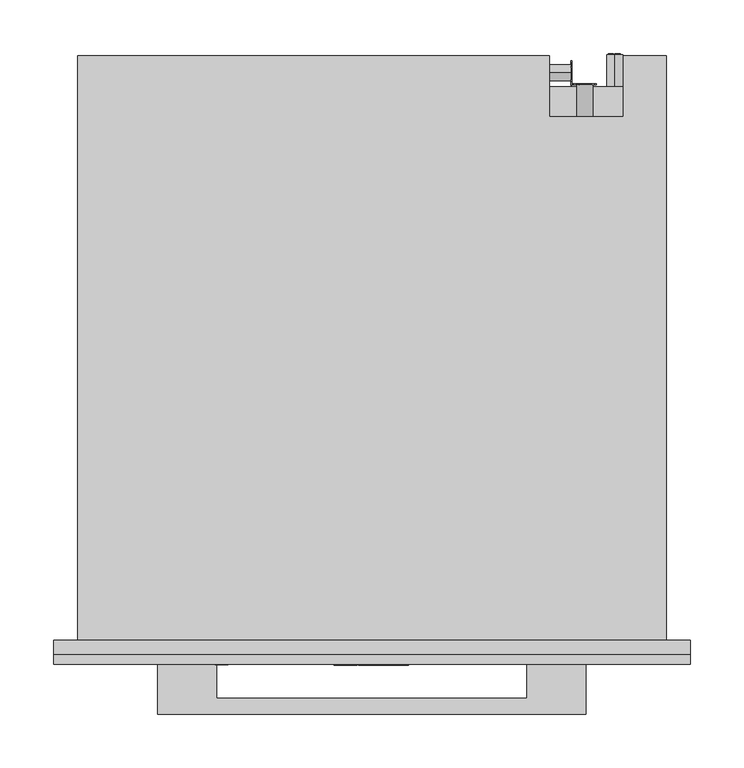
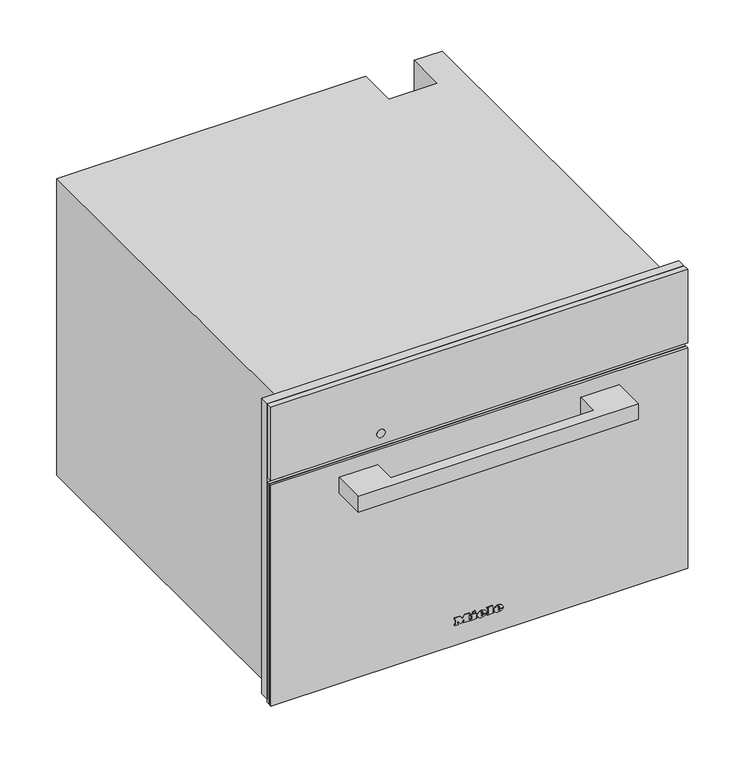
"""IFC4 building model written with IfcOpenShell, lengths in millimetres: proxy geometry, 11107200_D_DGC7845_GRGR : 23784532_D_11107200_DGC7845_GRGR."""

from ifc_helpers import new_model, si_unit, point, frame, frame_2d, origin, place, context, project, spatial, polyline, circle_curve, ellipse_curve, trimmed, segment, composite_curve, outline, extrude, faceted_brep, source, transform, mapped, element, save
from ifc_brep_helpers import plane_surface, cylinder_surface, revolved_surface, extruded_surface, advanced_brep


def specialty_equipment_906b5979(model_context):
    return source(origin(), model_context, "Body", "SolidModel", [
        extrude(outline(polyline([(455.0, 297.5), (455.0, -297.5), (9.0, -297.5), (9.0, 297.5), (455.0, 297.5)]), holes=[polyline([(344.0, -272.5), (344.0, 272.5), (27.0, 272.5), (27.0, -272.5), (344.0, -272.5)])]), frame((0.0, -13.0, 0.0), z_axis=(0.0, 1.0, 0.0), x_axis=(0.0, 0.0, 1.0)), (0.0, 0.0, 1.0), 13.0),
        extrude(outline(polyline([(383.0, 196.9217896), (383.0, 198.4267862), (393.0435673, 201.1942402), (393.0435673, 199.9014806), (384.4295103, 197.7797951), (393.0470645, 195.3087512), (393.0470645, 193.4373937), (384.4121052, 190.9191482), (393.0472266, 188.8443938), (393.0472266, 187.5376524), (383.0, 190.2769667), (383.0, 191.6257455), (391.8347238, 194.3884733), (383.0, 196.9217896)])), frame((0.0, 519.0, 0.0), z_axis=(0.0, 1.0, 0.0), x_axis=(0.0, 0.0, 1.0)), (0.0, 0.0, 1.0), 1.0),
        extrude(outline(polyline([(393.0468463, 209.521488), (393.0468463, 208.2566067), (388.129594, 208.2566067), (393.0474898, 203.1074328), (393.0474898, 201.3597489), (388.9313111, 205.6695027), (383.0, 201.1858157), (383.0, 202.7358731), (388.0700777, 206.5685235), (386.4282746, 208.2823622), (383.0, 208.2823622), (383.0, 209.521488), (393.0468463, 209.521488)])), frame((0.0, 519.0, 0.0), z_axis=(0.0, 1.0, 0.0), x_axis=(0.0, 0.0, 1.0)), (0.0, 0.0, 1.0), 1.0),
        extrude(outline(polyline([(518.3136153, 20.0), (522.323529, 30.045631), (523.3928394, 30.045631), (527.4027531, 20.0), (526.0759254, 20.0), (524.925681, 23.1392597), (520.7882348, 23.1392597), (519.640443, 20.0), (518.3136153, 20.0)]), holes=[polyline([(521.2493136, 24.3949636), (524.4670548, 24.3949636), (523.5620651, 26.864678), (522.8581842, 28.7899271), (522.2327848, 27.0805021), (521.2493136, 24.3949636)])]), frame((186.0, 0.0, 0.0), z_axis=(1.0, 0.0, 0.0), x_axis=(0.0, 1.0, 0.0)), (0.0, 0.0, 1.0), 1.0),
        extrude(outline(polyline([(530.5420128, 20.0), (527.8025182, 30.045631), (529.0974628, 30.045631), (530.6867131, 23.4433755), (531.1772224, 21.4053092), (531.7020674, 23.207931), (533.6935352, 30.045631), (535.5599232, 30.045631), (537.0069257, 25.0890343), (538.0835937, 21.4053092), (538.5593878, 23.3845144), (540.1633533, 30.045631), (541.4582979, 30.045631), (538.7163507, 20.0), (537.3748077, 20.0), (534.9664069, 27.7500474), (534.630408, 28.8316204), (534.2527159, 27.5293182), (532.0576866, 20.0), (530.5420128, 20.0)])), frame((186.0, 0.0, 0.0), z_axis=(1.0, 0.0, 0.0), x_axis=(0.0, 1.0, 0.0)), (0.0, 0.0, 1.0), 1.0),
        advanced_brep(
        [(227.0, 547.0, 255.5), (227.0, 547.0, 240.5), (221.4098301, 547.0, 243.0), (225.5, 547.0, 243.0), (225.5, 547.0, 253.0), (224.4955303, 547.0, 253.0), (224.4955303, 547.0, 244.0), (221.0315043, 547.0, 244.0), (221.0315043, 547.0, 243.4582978), (232.0, 547.0, 243.0), (232.0, 547.0, 253.0), (227.0, 547.0, 253.0), (227.0, 547.0, 252.0), (231.0, 547.0, 252.0), (231.0, 547.0, 248.5), (228.0, 547.0, 248.5), (228.0, 547.0, 247.5), (231.0, 547.0, 247.5), (231.0, 547.0, 244.0), (227.0, 547.0, 244.0), (227.0, 547.0, 243.0), (227.0, 517.0, 240.5), (227.0, 517.0, 255.5), (232.0, 548.0, 253.0), (232.0, 548.0, 243.0), (227.0, 548.0, 243.0), (227.0, 548.0, 244.0), (231.0, 548.0, 244.0), (231.0, 548.0, 247.5), (228.0, 548.0, 247.5), (228.0, 548.0, 248.5), (231.0, 548.0, 248.5), (231.0, 548.0, 252.0), (227.0, 548.0, 252.0), (227.0, 548.0, 253.0), (225.5, 548.0, 243.0), (221.0315043, 548.0, 243.0), (221.0315043, 548.0, 244.0), (224.4955303, 548.0, 244.0), (224.4955303, 548.0, 253.0), (225.5, 548.0, 253.0), (221.0315043, 547.0, 243.0)],
        [
            (0, 1, circle_curve(frame((227.0, 547.0, 248.0), z_axis=(0.0, 1.0, 0.0), x_axis=(0.0, 0.0, 1.0)), 7.5)),
            (1, 2, circle_curve(frame((227.0, 547.0, 248.0), z_axis=(0.0, 1.0, 0.0), x_axis=(0.0, 0.0, 1.0)), 7.5)),
            (2, 3),
            (3, 4),
            (4, 5),
            (5, 6),
            (6, 7),
            (7, 8),
            (8, 0, circle_curve(frame((227.0, 547.0, 248.0), z_axis=(0.0, 1.0, 0.0), x_axis=(0.0, 0.0, 1.0)), 7.5)),
            (9, 10),
            (10, 11),
            (11, 12),
            (12, 13),
            (13, 14),
            (14, 15),
            (15, 16),
            (16, 17),
            (17, 18),
            (18, 19),
            (19, 20),
            (20, 9),
            (21, 22, circle_curve(frame((227.0, 517.0, 248.0), z_axis=(0.0, -1.0, 0.0), x_axis=(0.0, 0.0, 1.0)), 7.5)),
            (22, 21, circle_curve(frame((227.0, 517.0, 248.0), z_axis=(0.0, -1.0, 0.0), x_axis=(0.0, 0.0, 1.0)), 7.5)),
            (0, 22),
            (21, 1),
            (8, 2, circle_curve(frame((227.0, 547.0, 248.0), z_axis=(0.0, -1.0, 0.0), x_axis=(0.0, 0.0, 1.0)), 7.5)),
            (23, 24),
            (24, 25),
            (25, 26),
            (26, 27),
            (27, 28),
            (28, 29),
            (29, 30),
            (30, 31),
            (31, 32),
            (32, 33),
            (33, 34),
            (34, 23),
            (35, 36),
            (36, 37),
            (37, 38),
            (38, 39),
            (39, 40),
            (40, 35),
            (8, 41),
            (41, 2),
            (23, 10),
            (9, 24),
            (20, 25),
            (19, 26),
            (18, 27),
            (17, 28),
            (16, 29),
            (15, 30),
            (14, 31),
            (13, 32),
            (12, 33),
            (11, 34),
            (35, 3),
            (41, 36),
            (7, 37),
            (6, 38),
            (5, 39),
            (4, 40),
        ],
        [
            plane_surface(frame((227.0, 547.0, 255.5), z_axis=(0.0, 1.0, 0.0), x_axis=(1.0, 0.0, 0.0))),
            plane_surface(frame((227.0, 517.0, 255.5), z_axis=(0.0, -1.0, 0.0), x_axis=(-1.0, 0.0, 0.0))),
            cylinder_surface(frame((227.0, 547.0, 248.0), z_axis=(0.0, -1.0, 0.0), x_axis=(0.0, 0.0, 1.0)), 7.5),
            plane_surface(frame((232.0, 548.0, 253.0), z_axis=(0.0, 1.0, 0.0), x_axis=(0.0, 0.0, -1.0))),
            plane_surface(frame((232.0, 547.0, 253.0), z_axis=(0.0, -1.0, 0.0), x_axis=(0.0, 0.0, 1.0))),
            plane_surface(frame((232.0, 548.0, 253.0), z_axis=(1.0, 0.0, 0.0), x_axis=(0.0, -1.0, 0.0))),
            plane_surface(frame((232.0, 548.0, 243.0), z_axis=(0.0, 0.0, -1.0), x_axis=(0.0, -1.0, 0.0))),
            plane_surface(frame((227.0, 548.0, 243.0), z_axis=(-1.0, 0.0, 0.0), x_axis=(0.0, -1.0, 0.0))),
            plane_surface(frame((227.0, 548.0, 244.0), z_axis=(0.0, 0.0, 1.0), x_axis=(0.0, -1.0, 0.0))),
            plane_surface(frame((231.0, 548.0, 244.0), z_axis=(-1.0, 0.0, 0.0), x_axis=(0.0, -1.0, 0.0))),
            plane_surface(frame((231.0, 548.0, 247.5), z_axis=(0.0, 0.0, -1.0), x_axis=(0.0, -1.0, 0.0))),
            plane_surface(frame((228.0, 548.0, 247.5), z_axis=(-1.0, 0.0, 0.0), x_axis=(0.0, -1.0, 0.0))),
            plane_surface(frame((228.0, 548.0, 248.5), z_axis=(0.0, 0.0, 1.0), x_axis=(0.0, -1.0, 0.0))),
            plane_surface(frame((231.0, 548.0, 248.5), z_axis=(-1.0, 0.0, 0.0), x_axis=(0.0, -1.0, 0.0))),
            plane_surface(frame((231.0, 548.0, 252.0), z_axis=(0.0, 0.0, -1.0), x_axis=(0.0, -1.0, 0.0))),
            plane_surface(frame((227.0, 548.0, 252.0), z_axis=(-1.0, 0.0, 0.0), x_axis=(0.0, -1.0, 0.0))),
            plane_surface(frame((227.0, 548.0, 253.0), z_axis=(0.0, 0.0, 1.0), x_axis=(0.0, -1.0, 0.0))),
            plane_surface(frame((225.5, 548.0, 243.0), z_axis=(0.0, 0.0, -1.0), x_axis=(0.0, -1.0, 0.0))),
            plane_surface(frame((221.0315043, 548.0, 243.0), z_axis=(-1.0, 0.0, 0.0), x_axis=(0.0, -1.0, 0.0))),
            plane_surface(frame((221.0315043, 548.0, 244.0), z_axis=(0.0, 0.0, 1.0), x_axis=(0.0, -1.0, 0.0))),
            plane_surface(frame((224.4955303, 548.0, 244.0), z_axis=(-1.0, 0.0, 0.0), x_axis=(0.0, -1.0, 0.0))),
            plane_surface(frame((224.4955303, 548.0, 253.0), z_axis=(0.0, 0.0, 1.0), x_axis=(0.0, -1.0, 0.0))),
            plane_surface(frame((225.5, 548.0, 253.0), z_axis=(1.0, 0.0, 0.0), x_axis=(0.0, -1.0, 0.0))),
        ],
        [
            (0, [[1, 2, 3, 4, 5, 6, 7, 8, 9], [10, 11, 12, 13, 14, 15, 16, 17, 18, 19, 20, 21]]),
            (1, [[22, 23]]),
            (2, [[-1, 24, -22, 25]]),
            (2, [[-23, -24, -9, 26, -2, -25]]),
            (3, [[27, 28, 29, 30, 31, 32, 33, 34, 35, 36, 37, 38]]),
            (3, [[39, 40, 41, 42, 43, 44]]),
            (4, [[45, 46, -26]]),
            (5, [[-27, 47, -10, 48]]),
            (6, [[-28, -48, -21, 49]]),
            (7, [[-29, -49, -20, 50]]),
            (8, [[-30, -50, -19, 51]]),
            (9, [[-31, -51, -18, 52]]),
            (10, [[-32, -52, -17, 53]]),
            (11, [[-33, -53, -16, 54]]),
            (12, [[-34, -54, -15, 55]]),
            (13, [[-35, -55, -14, 56]]),
            (14, [[-36, -56, -13, 57]]),
            (15, [[-37, -57, -12, 58]]),
            (16, [[-38, -58, -11, -47]]),
            (17, [[-39, 59, -3, -46, 60]]),
            (18, [[-40, -60, -45, -8, 61]]),
            (19, [[-41, -61, -7, 62]]),
            (20, [[-42, -62, -6, 63]]),
            (21, [[-43, -63, -5, 64]]),
            (22, [[-44, -64, -4, -59]]),
        ],
    ),
        extrude(outline(composite_curve([segment(trimmed(circle_curve(frame_2d((388.0, 199.0)), 7.5), [point((388.0, 206.5))], [point((388.0, 191.5))], False, "CARTESIAN"), True, "CONTINUOUS"), segment(trimmed(circle_curve(frame_2d((388.0, 199.0)), 7.5), [point((388.0, 191.5))], [point((388.0, 206.5))], False, "CARTESIAN"), True, "CONTINUOUS")], self_intersect=False)), frame((0.0, 489.0, 0.0), z_axis=(0.0, 1.0, 0.0), x_axis=(0.0, 0.0, 1.0)), (0.0, 0.0, 1.0), 30.0),
        extrude(outline(composite_curve([segment(trimmed(circle_curve(frame_2d((530.0, 25.0)), 7.5), [point((530.0, 17.5))], [point((530.0, 32.5))], False, "CARTESIAN"), True, "CONTINUOUS"), segment(trimmed(circle_curve(frame_2d((530.0, 25.0)), 7.5), [point((530.0, 32.5))], [point((530.0, 17.5))], False, "CARTESIAN"), True, "CONTINUOUS")], self_intersect=False)), frame((166.0, 0.0, 0.0), z_axis=(1.0, 0.0, 0.0), x_axis=(0.0, 1.0, 0.0)), (0.0, 0.0, 1.0), 20.0),
        faceted_brep([(-275.0, 546.0, 0.0), (-275.0, 546.0, 448.0), (166.0, 546.0, 448.0), (166.0, 546.0, 0.0), (235.0, 546.0, 448.0), (275.0, 546.0, 448.0), (275.0, 546.0, 338.0), (235.0, 546.0, 338.0), (275.0, 0.0, 448.0), (-275.0, 0.0, 448.0), (-275.0, 0.0, 0.0), (275.0, 0.0, 0.0), (-272.5, 0.0, 344.0), (272.5, 0.0, 344.0), (272.5, 0.0, 27.0), (-272.5, 0.0, 27.0), (235.0, 489.0, 448.0), (166.0, 489.0, 448.0), (166.0, 517.0, 0.0), (275.0, 517.0, 0.0), (275.0, 517.0, 338.0), (272.5, 17.0, 344.0), (-272.5, 17.0, 344.0), (-272.5, 17.0, 27.0), (272.5, 17.0, 27.0), (231.0, 17.0, 307.0), (231.0, 17.0, 65.0), (-231.0, 17.0, 65.0), (-231.0, 17.0, 307.0), (231.0, 411.0, 307.0), (-231.0, 411.0, 307.0), (-231.0, 411.0, 65.0), (231.0, 411.0, 65.0), (235.0, 489.0, 337.0), (166.0, 489.0, 337.0), (166.0, 517.0, 337.0), (235.0, 517.0, 337.0), (235.0, 517.0, 338.0)], [[[0, 1, 2, 3]], [[4, 5, 6, 7]], [[8, 9, 10, 11], [12, 13, 14, 15]], [[9, 8, 5, 4, 16, 17, 2, 1]], [[1, 0, 10, 9]], [[11, 10, 0, 3, 18, 19]], [[8, 11, 19, 20, 6, 5]], [[21, 22, 23, 24], [25, 26, 27, 28]], [[22, 21, 13, 12]], [[23, 22, 12, 15]], [[24, 23, 15, 14]], [[21, 24, 14, 13]], [[29, 30, 31, 32]], [[29, 32, 26, 25]], [[32, 31, 27, 26]], [[31, 30, 28, 27]], [[30, 29, 25, 28]], [[16, 33, 34, 17]], [[17, 34, 35, 18, 3, 2]], [[34, 33, 36, 35]], [[33, 16, 4, 7, 37, 36]], [[37, 20, 19, 18, 35, 36]], [[20, 37, 7, 6]]]),
        advanced_brep(
        [(26.2998, -23.0, 36.7018), (26.2998, -23.0, 37.8532), (33.9264, -23.0, 37.8532), (20.6568, -23.0, 37.8532), (23.7918, -23.0, 34.0), (33.7326, -23.0, 36.7018), (30.2898, -23.0, 36.7018), (27.5766, -23.0, 35.425), (26.2998, -23.0, 39.3124), (26.2998, -23.0, 40.555), (28.2492, -23.0, 40.555), (28.2492, -23.0, 39.3124), (26.2998, -22.0, 36.7018), (27.5766, -22.0, 35.425), (30.2898, -22.0, 36.7018), (33.7326, -22.0, 36.7018), (23.7918, -22.0, 34.0), (20.6568, -22.0, 37.8532), (33.9264, -22.0, 37.8532), (26.2998, -22.0, 37.8532), (26.2998, -22.0, 39.3124), (28.2492, -22.0, 39.3124), (28.2492, -22.0, 40.555), (26.2998, -22.0, 40.555)],
        [
            (0, 1),
            (1, 2),
            (2, 3, ellipse_curve(frame((27.2916, -23.0, 37.8532), z_axis=(0.0, -1.0, 0.0), x_axis=(-1.0, 0.0, 0.0)), 6.6348, 5.4834)),
            (3, 4, circle_curve(frame((25.0686622, -23.0, 38.2408), z_axis=(0.0, -1.0, 0.0), x_axis=(0.0, 0.0, -1.0)), 4.4288556)),
            (4, 5, circle_curve(frame((27.1587808, -23.0, 41.2504), z_axis=(0.0, -1.0, 0.0), x_axis=(0.0, 0.0, -1.0)), 7.9940516)),
            (5, 6),
            (6, 7, circle_curve(frame((28.1338588, -23.0, 37.762), z_axis=(0.0, 1.0, 0.0), x_axis=(0.0, 0.0, -1.0)), 2.4025208)),
            (7, 0, circle_curve(frame((27.5766, -23.0, 36.7018), z_axis=(0.0, 1.0, 0.0), x_axis=(0.0, 0.0, -1.0)), 1.2768)),
            (8, 9),
            (9, 10, circle_curve(frame((27.2745, -23.0, 40.555), z_axis=(0.0, 1.0, 0.0), x_axis=(0.0, 0.0, -1.0)), 0.9747)),
            (10, 11),
            (11, 8),
            (12, 13, circle_curve(frame((27.5766, -22.0, 36.7018), z_axis=(0.0, -1.0, 0.0), x_axis=(0.0, 0.0, -1.0)), 1.2768)),
            (13, 14, circle_curve(frame((28.1338588, -22.0, 37.762), z_axis=(0.0, -1.0, 0.0), x_axis=(0.0, 0.0, -1.0)), 2.4025208)),
            (14, 15),
            (15, 16, circle_curve(frame((27.1587808, -22.0, 41.2504), z_axis=(0.0, 1.0, 0.0), x_axis=(0.0, 0.0, -1.0)), 7.9940516)),
            (16, 17, circle_curve(frame((25.0686622, -22.0, 38.2408), z_axis=(0.0, 1.0, 0.0), x_axis=(0.0, 0.0, -1.0)), 4.4288556)),
            (17, 18, ellipse_curve(frame((27.2916, -22.0, 37.8532), z_axis=(0.0, 1.0, 0.0), x_axis=(-1.0, 0.0, 0.0)), 6.6348, 5.4834)),
            (18, 19),
            (19, 12),
            (20, 21),
            (21, 22),
            (22, 23, circle_curve(frame((27.2745, -22.0, 40.555), z_axis=(0.0, -1.0, 0.0), x_axis=(0.0, 0.0, -1.0)), 0.9747)),
            (23, 20),
            (0, 12),
            (19, 1),
            (18, 2),
            (5, 15),
            (14, 6),
            (17, 3),
            (13, 7),
            (16, 4),
            (8, 20),
            (23, 9),
            (22, 10),
            (21, 11),
        ],
        [
            plane_surface(frame((26.2998, -23.0, 37.8532), z_axis=(0.0, -1.0, 0.0), x_axis=(0.0, 0.0, 1.0))),
            plane_surface(frame((26.2998, -22.0, 37.8532), z_axis=(0.0, 1.0, 0.0), x_axis=(0.0, 0.0, -1.0))),
            plane_surface(frame((26.2998, -23.0, 36.7018), z_axis=(1.0, 0.0, 0.0), x_axis=(0.0, 1.0, 0.0))),
            plane_surface(frame((26.2998, -23.0, 37.8532), z_axis=(0.0, 0.0, -1.0), x_axis=(0.0, 1.0, 0.0))),
            plane_surface(frame((33.7326, -23.0, 36.7018), z_axis=(0.0, 0.0, 1.0), x_axis=(0.0, 1.0, 0.0))),
            extruded_surface(trimmed(ellipse_curve(frame((27.2916, -21.0, 37.8532), z_axis=(0.0, -1.0, 0.0), x_axis=(-1.0, 0.0, 0.0)), 6.6348, 5.4834), [point((33.9264, -21.0, 37.8532))], [point((20.6568, -21.0, 37.8532))], True, "CARTESIAN"), (0.0, -1.0, 0.0), 1.0),
            revolved_surface(polyline([(28.1338588, -22.0, 35.3594792), (28.1338588, -23.0, 35.3594792)]), (28.1338588, -22.0, 37.762), (0.0, 1.0, 0.0)),
            revolved_surface(polyline([(27.5766, -22.0, 35.425), (27.5766, -23.0, 35.425)]), (27.5766, -22.0, 36.7018), (0.0, 1.0, 0.0)),
            cylinder_surface(frame((25.0686622, -22.0, 38.2408), z_axis=(0.0, -1.0, 0.0), x_axis=(0.0, 0.0, -1.0)), 4.4288556),
            cylinder_surface(frame((27.1587808, -22.0, 41.2504), z_axis=(0.0, -1.0, 0.0), x_axis=(0.0, 0.0, -1.0)), 7.9940516),
            plane_surface(frame((26.2998, -23.0, 39.3124), z_axis=(1.0, 0.0, 0.0), x_axis=(0.0, 1.0, 0.0))),
            revolved_surface(polyline([(27.2745, -22.0, 39.5803), (27.2745, -23.0, 39.5803)]), (27.2745, -22.0, 40.555), (0.0, 1.0, 0.0)),
            plane_surface(frame((28.2492, -23.0, 40.555), z_axis=(-1.0, 0.0, 0.0), x_axis=(0.0, 1.0, 0.0))),
            plane_surface(frame((28.2492, -23.0, 39.3124), z_axis=(0.0, 0.0, 1.0), x_axis=(0.0, 1.0, 0.0))),
        ],
        [
            (0, [[1, 2, 3, 4, 5, 6, 7, 8], [9, 10, 11, 12]]),
            (1, [[13, 14, 15, 16, 17, 18, 19, 20], [21, 22, 23, 24]]),
            (2, [[-1, 25, -20, 26]]),
            (3, [[-2, -26, -19, 27]]),
            (4, [[-6, 28, -15, 29]]),
            (5, [[-3, -27, -18, 30]]),
            (6, [[-7, -29, -14, 31]]),
            (7, [[-8, -31, -13, -25]]),
            (8, [[-4, -30, -17, 32]]),
            (9, [[-5, -32, -16, -28]]),
            (10, [[-9, 33, -24, 34]]),
            (11, [[-10, -34, -23, 35]]),
            (12, [[-11, -35, -22, 36]]),
            (13, [[-12, -36, -21, -33]]),
        ],
    ),
        advanced_brep(
        [(2.508, -23.0, 36.7018), (2.508, -23.0, 37.8532), (10.1346, -23.0, 37.8532), (-3.135, -23.0, 37.8532), (0.0, -23.0, 34.0), (9.9408, -23.0, 36.7018), (6.498, -23.0, 36.7018), (3.7848, -23.0, 35.425), (2.508, -23.0, 39.3124), (2.508, -23.0, 40.555), (4.4574, -23.0, 40.555), (4.4574, -23.0, 39.3124), (2.508, -22.0, 36.7018), (3.7848, -22.0, 35.425), (6.498, -22.0, 36.7018), (9.9408, -22.0, 36.7018), (0.0, -22.0, 34.0), (-3.135, -22.0, 37.8532), (10.1346, -22.0, 37.8532), (2.508, -22.0, 37.8532), (2.508, -22.0, 39.3124), (4.4574, -22.0, 39.3124), (4.4574, -22.0, 40.555), (2.508, -22.0, 40.555)],
        [
            (0, 1),
            (1, 2),
            (2, 3, ellipse_curve(frame((3.4998, -23.0, 37.8532), z_axis=(0.0, -1.0, 0.0), x_axis=(-1.0, 0.0, 0.0)), 6.6348, 5.4834)),
            (3, 4, circle_curve(frame((1.2768622, -23.0, 38.2408), z_axis=(0.0, -1.0, 0.0), x_axis=(0.0, 0.0, -1.0)), 4.4288556)),
            (4, 5, circle_curve(frame((3.3669808, -23.0, 41.2504), z_axis=(0.0, -1.0, 0.0), x_axis=(0.0, 0.0, -1.0)), 7.9940516)),
            (5, 6),
            (6, 7, circle_curve(frame((4.3420588, -23.0, 37.762), z_axis=(0.0, 1.0, 0.0), x_axis=(0.0, 0.0, -1.0)), 2.4025208)),
            (7, 0, circle_curve(frame((3.7848, -23.0, 36.7018), z_axis=(0.0, 1.0, 0.0), x_axis=(0.0, 0.0, -1.0)), 1.2768)),
            (8, 9),
            (9, 10, circle_curve(frame((3.4827, -23.0, 40.555), z_axis=(0.0, 1.0, 0.0), x_axis=(0.0, 0.0, -1.0)), 0.9747)),
            (10, 11),
            (11, 8),
            (12, 13, circle_curve(frame((3.7848, -22.0, 36.7018), z_axis=(0.0, -1.0, 0.0), x_axis=(0.0, 0.0, -1.0)), 1.2768)),
            (13, 14, circle_curve(frame((4.3420588, -22.0, 37.762), z_axis=(0.0, -1.0, 0.0), x_axis=(0.0, 0.0, -1.0)), 2.4025208)),
            (14, 15),
            (15, 16, circle_curve(frame((3.3669808, -22.0, 41.2504), z_axis=(0.0, 1.0, 0.0), x_axis=(0.0, 0.0, -1.0)), 7.9940516)),
            (16, 17, circle_curve(frame((1.2768622, -22.0, 38.2408), z_axis=(0.0, 1.0, 0.0), x_axis=(0.0, 0.0, -1.0)), 4.4288556)),
            (17, 18, ellipse_curve(frame((3.4998, -22.0, 37.8532), z_axis=(0.0, 1.0, 0.0), x_axis=(-1.0, 0.0, 0.0)), 6.6348, 5.4834)),
            (18, 19),
            (19, 12),
            (20, 21),
            (21, 22),
            (22, 23, circle_curve(frame((3.4827, -22.0, 40.555), z_axis=(0.0, -1.0, 0.0), x_axis=(0.0, 0.0, -1.0)), 0.9747)),
            (23, 20),
            (0, 12),
            (19, 1),
            (18, 2),
            (5, 15),
            (14, 6),
            (17, 3),
            (13, 7),
            (16, 4),
            (8, 20),
            (23, 9),
            (22, 10),
            (21, 11),
        ],
        [
            plane_surface(frame((2.508, -23.0, 37.8532), z_axis=(0.0, -1.0, 0.0), x_axis=(0.0, 0.0, 1.0))),
            plane_surface(frame((2.508, -22.0, 37.8532), z_axis=(0.0, 1.0, 0.0), x_axis=(0.0, 0.0, -1.0))),
            plane_surface(frame((2.508, -23.0, 36.7018), z_axis=(1.0, 0.0, 0.0), x_axis=(0.0, 1.0, 0.0))),
            plane_surface(frame((2.508, -23.0, 37.8532), z_axis=(0.0, 0.0, -1.0), x_axis=(0.0, 1.0, 0.0))),
            plane_surface(frame((9.9408, -23.0, 36.7018), z_axis=(0.0, 0.0, 1.0), x_axis=(0.0, 1.0, 0.0))),
            extruded_surface(trimmed(ellipse_curve(frame((3.4998, -21.0, 37.8532), z_axis=(0.0, -1.0, 0.0), x_axis=(-1.0, 0.0, 0.0)), 6.6348, 5.4834), [point((10.1346, -21.0, 37.8532))], [point((-3.135, -21.0, 37.8532))], True, "CARTESIAN"), (0.0, -1.0, 0.0), 1.0),
            revolved_surface(polyline([(4.3420588, -22.0, 35.3594792), (4.3420588, -23.0, 35.3594792)]), (4.3420588, -22.0, 37.762), (0.0, 1.0, 0.0)),
            revolved_surface(polyline([(3.7848, -22.0, 35.425), (3.7848, -23.0, 35.425)]), (3.7848, -22.0, 36.7018), (0.0, 1.0, 0.0)),
            cylinder_surface(frame((1.2768622, -22.0, 38.2408), z_axis=(0.0, -1.0, 0.0), x_axis=(0.0, 0.0, -1.0)), 4.4288556),
            cylinder_surface(frame((3.3669808, -22.0, 41.2504), z_axis=(0.0, -1.0, 0.0), x_axis=(0.0, 0.0, -1.0)), 7.9940516),
            plane_surface(frame((2.508, -23.0, 39.3124), z_axis=(1.0, 0.0, 0.0), x_axis=(0.0, 1.0, 0.0))),
            revolved_surface(polyline([(3.4827, -22.0, 39.5803), (3.4827, -23.0, 39.5803)]), (3.4827, -22.0, 40.555), (0.0, 1.0, 0.0)),
            plane_surface(frame((4.4574, -23.0, 40.555), z_axis=(-1.0, 0.0, 0.0), x_axis=(0.0, 1.0, 0.0))),
            plane_surface(frame((4.4574, -23.0, 39.3124), z_axis=(0.0, 0.0, 1.0), x_axis=(0.0, 1.0, 0.0))),
        ],
        [
            (0, [[1, 2, 3, 4, 5, 6, 7, 8], [9, 10, 11, 12]]),
            (1, [[13, 14, 15, 16, 17, 18, 19, 20], [21, 22, 23, 24]]),
            (2, [[-1, 25, -20, 26]]),
            (3, [[-2, -26, -19, 27]]),
            (4, [[-6, 28, -15, 29]]),
            (5, [[-3, -27, -18, 30]]),
            (6, [[-7, -29, -14, 31]]),
            (7, [[-8, -31, -13, -25]]),
            (8, [[-4, -30, -17, 32]]),
            (9, [[-5, -32, -16, -28]]),
            (10, [[-9, 33, -24, 34]]),
            (11, [[-10, -34, -23, 35]]),
            (12, [[-11, -35, -22, 36]]),
            (13, [[-12, -36, -21, -33]]),
        ],
    ),
        extrude(outline(polyline([(44.7274, -9.9522), (42.8806, -9.0858), (44.6818, -5.2212), (46.5286, -6.0762), (44.7274, -9.9522)])), frame((0.0, -23.0, 0.0), z_axis=(0.0, 1.0, 0.0), x_axis=(0.0, 0.0, 1.0)), (0.0, 0.0, 1.0), 1.0),
        extrude(outline(polyline([(42.6298, -12.768), (40.5892, -12.768), (40.5892, -11.4114), (35.9152, -11.4114), (35.9152, -12.768), (34.0, -12.768), (34.0, -3.7734), (35.9152, -3.7734), (35.9152, -5.0958), (42.6298, -5.0958), (42.6298, -12.768)])), frame((0.0, -23.0, 0.0), z_axis=(0.0, 1.0, 0.0), x_axis=(0.0, 0.0, 1.0)), (0.0, 0.0, 1.0), 1.0),
        extrude(outline(polyline([(43.5418, 10.773), (43.5418, 12.141), (35.9152, 12.141), (35.9152, 10.773), (34.0, 10.773), (34.0, 20.0184), (35.9152, 20.0184), (35.9152, 18.6162), (45.4, 18.6162), (45.4, 10.773), (43.5418, 10.773)])), frame((0.0, -23.0, 0.0), z_axis=(0.0, 1.0, 0.0), x_axis=(0.0, 0.0, 1.0)), (0.0, 0.0, 1.0), 1.0),
        extrude(outline(polyline([(43.5418, -35.4882), (43.5418, -34.1088), (35.9152, -34.1088), (35.9152, -35.4882), (34.0, -35.4882), (34.0, -30.4722), (35.9152, -30.4722), (35.9152, -31.8402), (40.7429247, -31.8402), (34.0, -26.7444), (40.9402223, -21.6258), (35.9152, -21.6258), (35.9152, -23.028), (34.0, -23.028), (34.0, -13.9308), (35.9152, -13.9308), (35.9152, -15.3786), (43.5418, -15.3786), (43.5418, -13.9308), (45.4, -13.9308), (45.4, -20.8734), (41.125, -24.2022), (45.4, -27.5424), (45.4, -35.4882), (43.5418, -35.4882)])), frame((0.0, -23.0, 0.0), z_axis=(0.0, 1.0, 0.0), x_axis=(0.0, 0.0, 1.0)), (0.0, 0.0, 1.0), 1.0),
        extrude(outline(polyline([(297.5, -22.0), (-297.5, -22.0), (-297.5, -13.0), (297.5, -13.0), (297.5, -22.0)])), frame((0.0, 0.0, 344.0), z_axis=(0.0, 0.0, 1.0), x_axis=(1.0, 0.0, 0.0)), (0.0, 0.0, 1.0), 111.0),
        extrude(outline(composite_curve([segment(trimmed(circle_curve(frame_2d((361.0, -140.5745637)), 6.0), [point((361.0, -146.5745637))], [point((361.0, -134.5745637))], False, "CARTESIAN"), True, "CONTINUOUS"), segment(trimmed(circle_curve(frame_2d((361.0, -140.5745637)), 6.0), [point((361.0, -134.5745637))], [point((361.0, -146.5745637))], False, "CARTESIAN"), True, "CONTINUOUS")], self_intersect=False)), frame((0.0, -22.5, 0.0), z_axis=(0.0, 1.0, 0.0), x_axis=(0.0, 0.0, 1.0)), (0.0, 0.0, 1.0), 1.0),
        extrude(outline(polyline([(-200.0, -69.0), (-200.0, -22.0), (-145.0, -22.0), (-145.0, -54.0), (145.0, -54.0), (145.0, -22.0), (200.0, -22.0), (200.0, -69.0), (-200.0, -69.0)])), frame((0.0, 0.0, 291.0), z_axis=(0.0, 0.0, 1.0), x_axis=(1.0, 0.0, 0.0)), (0.0, 0.0, 1.0), 24.0),
        extrude(outline(polyline([(297.5, -18.0), (-297.5, -18.0), (-297.5, -13.0), (297.5, -13.0), (297.5, -18.0)])), frame((0.0, 0.0, 4.0), z_axis=(0.0, 0.0, 1.0), x_axis=(1.0, 0.0, 0.0)), (0.0, 0.0, 1.0), 333.0),
        extrude(outline(polyline([(-297.5, -18.0), (297.5, -18.0), (297.5, -22.0), (-297.5, -22.0), (-297.5, -18.0)])), frame((0.0, 0.0, 4.0), z_axis=(0.0, 0.0, 1.0), x_axis=(1.0, 0.0, 0.0)), (0.0, 0.0, 1.0), 333.0),
    ])


if __name__ == "__main__":
    model = new_model("IFC4")
    model_context = context("Model", 3, world=origin())
    ifc_project = project(units=[si_unit("LENGTHUNIT", "METRE", prefix="MILLI")], contexts=[model_context])
    site = spatial("IfcSite", under=ifc_project)
    building = spatial("IfcBuilding", under=site)
    placement = place(None, origin())
    specialty_equipment_shape = specialty_equipment_906b5979(model_context)
    element("IfcBuildingElementProxy", 1, Name="11107200_D_DGC7845_GRGR : 23784532_D_11107200_DGC7845_GRGR", ObjectType="11107200_D_DGC7845_GRGR : 23784532_D_11107200_DGC7845_GRGR", at=placement, inside=building, context=model_context, shape_type="MappedRepresentation", body=[
        mapped(specialty_equipment_shape, transform((0.0, 0.0, 0.0), x_axis=(1.0, 0.0, 0.0), y_axis=(0.0, 1.0, 0.0), z_axis=(0.0, 0.0, 1.0))),
    ])
    save(model, "model.ifc")
